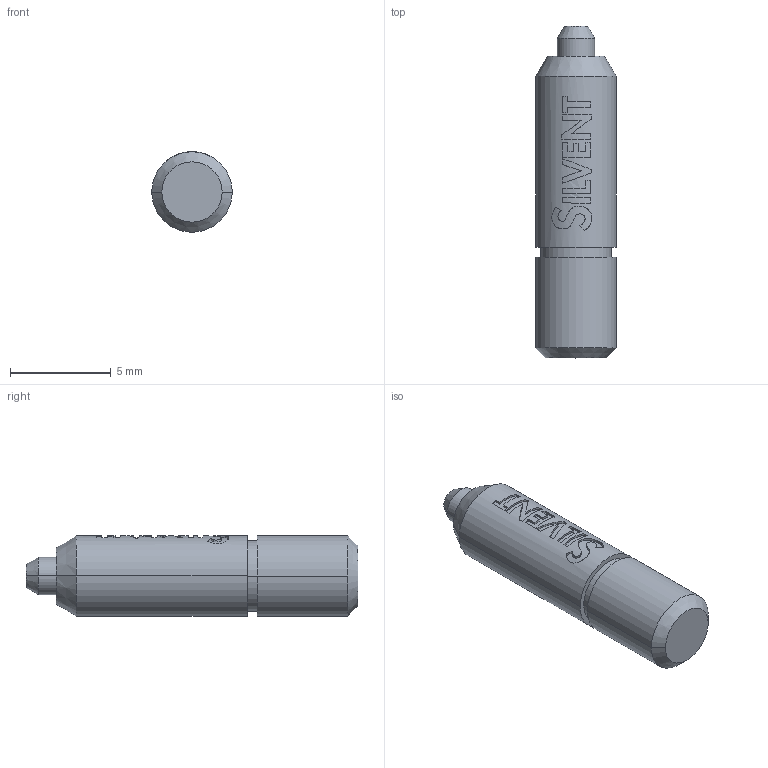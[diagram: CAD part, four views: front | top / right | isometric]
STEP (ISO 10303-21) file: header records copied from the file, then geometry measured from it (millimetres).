
FILE_DESCRIPTION (( 'STEP AP203' ), '1' );
FILE_NAME ('Silvent MJ4.STEP', '2003-09-23T11:48:42', ( 'Ulf Persson' ), ( '' ), 'SwSTEP 2.0', 'SolidWorks 2003099', '' );
FILE_SCHEMA (( 'CONFIG_CONTROL_DESIGN' ));
Length unit declared in the file: millimetre
Products named in the file (1): Silvent MJ4
Bounding box: 4 x 16.5 x 4 mm (x, y, z)
Volume: 185.3 mm3; surface area: 219.4 mm2
Topology: 1 solids, 1 shells, 149 faces, 406 edges, 269 vertices
Faces by surface type: cylinder 90, plane 53, cone 6
Entity records: 5172 total; most frequent: CARTESIAN_POINT 1719, ORIENTED_EDGE 812, DIRECTION 553, EDGE_CURVE 406, VERTEX_POINT 269, AXIS2_PLACEMENT_3D 195, LINE 163, VECTOR 163
